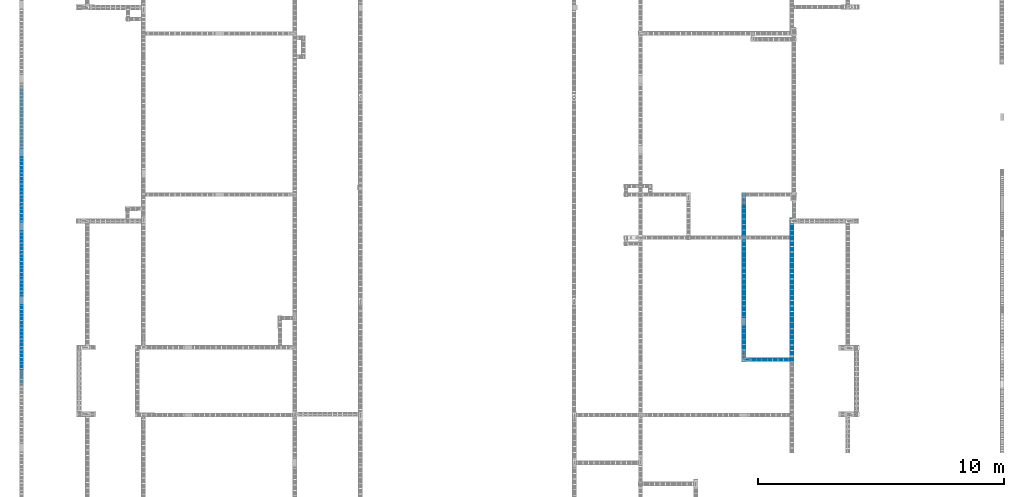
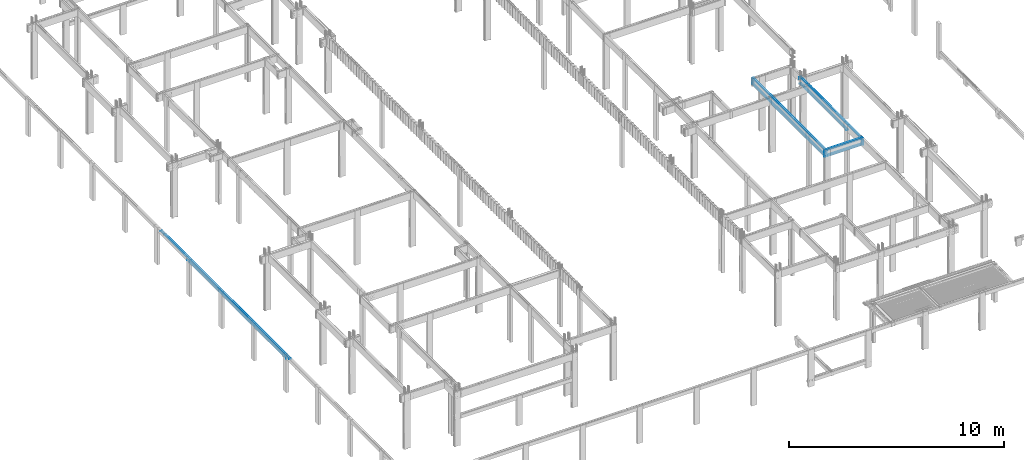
# One storey, part 57 of 236: 16 reinforcing bars.
"""IFC4 building model written with IfcOpenShell, lengths in centimetres."""

from ifc_helpers import new_model, entity, si_unit, derived_unit, frame, origin_with_axes, place, context, project, spatial, element, save


model = new_model("IFC4")

# Units and contexts
model_context = context("Model", 3, precision=1e-05, world=origin_with_axes(), identifier="Body")
ifc_project = project(units=[si_unit("LENGTHUNIT", "METRE", prefix="CENTI"), si_unit("VOLUMEUNIT", "CUBIC_METRE"), si_unit("AREAUNIT", "SQUARE_METRE"), si_unit("POWERUNIT", "WATT"), si_unit("LUMINOUSFLUXUNIT", "LUMEN"), si_unit("ELECTRICCURRENTUNIT", "AMPERE"), si_unit("PRESSUREUNIT", "PASCAL", prefix="KILO"), si_unit("MASSUNIT", "GRAM", prefix="KILO"), si_unit("PLANEANGLEUNIT", "RADIAN"), derived_unit("VOLUMETRICFLOWRATEUNIT", [(si_unit("LENGTHUNIT", "METRE"), 3), (si_unit("TIMEUNIT", "SECOND"), -1)])], contexts=[model_context])

# Site, building, storey
site_placement = place(None, frame((-4000.0, 0.0, 0.0), z_axis=(0.0, 0.0, 1.0), x_axis=(1.0, 0.0, 0.0)))
site = spatial("IfcSite", under=ifc_project, at=site_placement, Name="PADRÃO")
building_placement = place(site_placement, frame((0.0, 0.0, -14.0)))
building = spatial("IfcBuilding", under=site, at=building_placement, Name="CRECHE PRÉ-ESCOLA TIPO 2")
placement_1 = place(building_placement, origin_with_axes())
placement_2 = place(placement_1, frame((0.0, 0.0, 30.0), z_axis=(0.0, 0.0, 1.0), x_axis=(1.0, 0.0, 0.0)))
storey_placement = place(placement_2, frame((0.0, 0.0, 310.0), z_axis=(0.0, 0.0, 1.0), x_axis=(1.0, 0.0, 0.0)))
storey = spatial("IfcBuildingStorey", under=building, at=storey_placement, Name="TERREO", CompositionType="ELEMENT", Elevation=326.0)

# Reinforcing bars
for number, where, z_axis, x_axis, name in (
    (1, (3040.87, 1256.62, -36.7), (0.0, 0.0, 1.0), (1.0, 0.0, 0.0), "V243 - Longitudinal inferior"),
    (2, (3040.87, 1248.42, -36.7), (0.0, 0.0, 1.0), (1.0, 0.0, 0.0), "V243 - Longitudinal inferior"),
):
    element("IfcReinforcingBar", number, at=place(storey_placement, frame(where, z_axis=z_axis, x_axis=x_axis)), inside=storey, Name=name, BarLength=0.0, CrossSectionArea=5.0265482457e-05, NominalDiameter=0.8, PredefinedType="MAIN", context=model_context, shape_type="AdvancedSweptSolid", body=[
        entity("IfcSweptDiskSolid", entity("IfcCompositeCurve", [entity("IfcCompositeCurveSegment", "CONTINUOUS", True, entity("IfcPolyline", [entity("IfcCartesianPoint", [-102.63, 0.0, -0.4]), entity("IfcCartesianPoint", [102.63, 0.0, -0.4])]))], False), 0.4),
    ])
for number, where, z_axis, x_axis, name in (
    (3, (3040.87, 1256.62, -2.49624973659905), (0.0, 0.0, 1.0), (1.0, 0.0, 0.0), "V243 - Longitudinal superior"),
    (4, (3040.87, 1248.42, -2.49624973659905), (0.0, 0.0, 1.0), (1.0, 0.0, 0.0), "V243 - Longitudinal superior"),
):
    element("IfcReinforcingBar", number, at=place(storey_placement, frame(where, z_axis=z_axis, x_axis=x_axis)), inside=storey, Name=name, BarLength=0.0, CrossSectionArea=5.0265482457e-05, NominalDiameter=0.8, PredefinedType="MAIN", context=model_context, shape_type="AdvancedSweptSolid", body=[
        entity("IfcSweptDiskSolid", entity("IfcCompositeCurve", [entity("IfcCompositeCurveSegment", "CONTINUOUS", True, entity("IfcPolyline", [entity("IfcCartesianPoint", [-102.23, 0.0, -22.7014629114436]), entity("IfcCartesianPoint", [-102.23, 0.0, -0.403750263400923])])), entity("IfcCompositeCurveSegment", "CONTINUOUS", True, entity("IfcPolyline", [entity("IfcCartesianPoint", [-102.23, 0.0, -0.403750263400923]), entity("IfcCartesianPoint", [102.23, 0.0, -0.403750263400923])])), entity("IfcCompositeCurveSegment", "CONTINUOUS", True, entity("IfcPolyline", [entity("IfcCartesianPoint", [102.23, 0.0, -0.403750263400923]), entity("IfcCartesianPoint", [102.23, 0.0, -36.4037502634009])]))], False), 0.4),
    ])
for number, where, z_axis, x_axis, name in (
    (5, (2939.14, 1587.52, -27.1), (0.0, 0.0, 1.0), (1.0, 0.0, 0.0), "V303 - Longitudinal inferior"),
    (6, (2947.34, 1587.52, -27.1), (0.0, 0.0, 1.0), (1.0, 0.0, 0.0), "V303 - Longitudinal inferior"),
):
    element("IfcReinforcingBar", number, at=place(storey_placement, frame(where, z_axis=z_axis, x_axis=x_axis)), inside=storey, Name=name, BarLength=0.0, CrossSectionArea=5.0265482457e-05, NominalDiameter=0.8, PredefinedType="MAIN", context=model_context, shape_type="AdvancedSweptSolid", body=[
        entity("IfcSweptDiskSolid", entity("IfcCompositeCurve", [entity("IfcCompositeCurveSegment", "CONTINUOUS", True, entity("IfcPolyline", [entity("IfcCartesianPoint", [0.0, -339.6, 0.0]), entity("IfcCartesianPoint", [0.0, -339.6, -10.0])])), entity("IfcCompositeCurveSegment", "CONTINUOUS", True, entity("IfcPolyline", [entity("IfcCartesianPoint", [0.0, -339.6, -10.0]), entity("IfcCartesianPoint", [0.0, 339.6, -10.0])])), entity("IfcCompositeCurveSegment", "CONTINUOUS", True, entity("IfcPolyline", [entity("IfcCartesianPoint", [0.0, 339.6, -10.0]), entity("IfcCartesianPoint", [0.0, 339.6, 0.0])]))], False), 0.4),
    ])
for number, where, z_axis, x_axis, name in (
    (7, (2947.34, 1587.52, -2.49624973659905), (0.0, 0.0, 1.0), (1.0, 0.0, 0.0), "V303 - Longitudinal superior"),
    (8, (2939.14, 1587.52, -2.49624973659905), (0.0, 0.0, 1.0), (1.0, 0.0, 0.0), "V303 - Longitudinal superior"),
):
    element("IfcReinforcingBar", number, at=place(storey_placement, frame(where, z_axis=z_axis, x_axis=x_axis)), inside=storey, Name=name, BarLength=0.0, CrossSectionArea=5.0265482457e-05, NominalDiameter=0.8, PredefinedType="MAIN", context=model_context, shape_type="AdvancedSweptSolid", body=[
        entity("IfcSweptDiskSolid", entity("IfcCompositeCurve", [entity("IfcCompositeCurveSegment", "CONTINUOUS", True, entity("IfcPolyline", [entity("IfcCartesianPoint", [0.0, -339.6, -22.7014629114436]), entity("IfcCartesianPoint", [0.0, -339.6, -0.403750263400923])])), entity("IfcCompositeCurveSegment", "CONTINUOUS", True, entity("IfcPolyline", [entity("IfcCartesianPoint", [0.0, -339.6, -0.403750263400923]), entity("IfcCartesianPoint", [0.0, 339.6, -0.403750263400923])])), entity("IfcCompositeCurveSegment", "CONTINUOUS", True, entity("IfcPolyline", [entity("IfcCartesianPoint", [0.0, 339.6, -0.403750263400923]), entity("IfcCartesianPoint", [0.0, 339.6, -22.7014629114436])]))], False), 0.4),
    ])
for number, where, z_axis, x_axis, name in (
    (9, (3142.6, 1603.02, -36.7), (0.0, 0.0, 1.0), (1.0, 0.0, 0.0), "V305 - Longitudinal inferior"),
    (10, (3134.4, 1603.02, -36.7), (0.0, 0.0, 1.0), (1.0, 0.0, 0.0), "V305 - Longitudinal inferior"),
):
    element("IfcReinforcingBar", number, at=place(storey_placement, frame(where, z_axis=z_axis, x_axis=x_axis)), inside=storey, Name=name, BarLength=0.0, CrossSectionArea=5.0265482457e-05, NominalDiameter=0.8, PredefinedType="MAIN", context=model_context, shape_type="AdvancedSweptSolid", body=[
        entity("IfcSweptDiskSolid", entity("IfcCompositeCurve", [entity("IfcCompositeCurveSegment", "CONTINUOUS", True, entity("IfcPolyline", [entity("IfcCartesianPoint", [0.0, -218.5, -0.4]), entity("IfcCartesianPoint", [0.0, 218.5, -0.4])]))], False), 0.4),
    ])
for number, where, z_axis, x_axis, name in (
    (11, (3142.5, 1535.24734391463, -2.49531217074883), (0.0, 0.0, 1.0), (1.0, 0.0, 0.0), "V305 - Longitudinal superior"),
    (12, (3134.5, 1535.24734391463, -2.49531217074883), (0.0, 0.0, 1.0), (1.0, 0.0, 0.0), "V305 - Longitudinal superior"),
):
    element("IfcReinforcingBar", number, at=place(storey_placement, frame(where, z_axis=z_axis, x_axis=x_axis)), inside=storey, Name=name, BarLength=0.0, CrossSectionArea=7.853981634e-05, NominalDiameter=1.0, PredefinedType="MAIN", context=model_context, shape_type="AdvancedSweptSolid", body=[
        entity("IfcSweptDiskSolid", entity("IfcCompositeCurve", [entity("IfcCompositeCurveSegment", "CONTINUOUS", True, entity("IfcPolyline", [entity("IfcCartesianPoint", [0.0, -290.717343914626, -0.504687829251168]), entity("IfcCartesianPoint", [0.0, 290.212656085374, -0.504687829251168])])), entity("IfcCompositeCurveSegment", "CONTINUOUS", True, entity("IfcPolyline", [entity("IfcCartesianPoint", [0.0, 290.212656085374, -0.504687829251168]), entity("IfcCartesianPoint", [0.0, 290.212656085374, -12.0046878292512])]))], False), 0.5),
    ])
for number, where, z_axis, x_axis, name in (
    (13, (4.4, 1644.5, -116.7), (0.0, 0.0, 1.0), (1.0, 0.0, 0.0), "V324 - Longitudinal inferior"),
    (14, (12.6, 1644.5, -116.7), (0.0, 0.0, 1.0), (1.0, 0.0, 0.0), "V324 - Longitudinal inferior"),
):
    element("IfcReinforcingBar", number, at=place(storey_placement, frame(where, z_axis=z_axis, x_axis=x_axis)), inside=storey, Name=name, BarLength=0.0, CrossSectionArea=5.0265482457e-05, NominalDiameter=0.8, PredefinedType="MAIN", context=model_context, shape_type="AdvancedSweptSolid", body=[
        entity("IfcSweptDiskSolid", entity("IfcCompositeCurve", [entity("IfcCompositeCurveSegment", "CONTINUOUS", True, entity("IfcPolyline", [entity("IfcCartesianPoint", [0.0, -461.685840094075, -0.4]), entity("IfcCartesianPoint", [0.0, 461.685840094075, -0.4])]))], False), 0.4),
    ])
for number, where, z_axis, x_axis, name in (
    (15, (12.6, 1753.98836963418, -102.5), (0.0, 0.0, 1.0), (1.0, 0.0, 0.0), "V324 - Longitudinal superior"),
    (16, (4.4, 1753.98836963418, -102.5), (0.0, 0.0, 1.0), (1.0, 0.0, 0.0), "V324 - Longitudinal superior"),
):
    element("IfcReinforcingBar", number, at=place(storey_placement, frame(where, z_axis=z_axis, x_axis=x_axis)), inside=storey, Name=name, BarLength=0.0, CrossSectionArea=5.0265482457e-05, NominalDiameter=0.8, PredefinedType="MAIN", context=model_context, shape_type="AdvancedSweptSolid", body=[
        entity("IfcSweptDiskSolid", entity("IfcCompositeCurve", [entity("IfcCompositeCurveSegment", "CONTINUOUS", True, entity("IfcPolyline", [entity("IfcCartesianPoint", [0.0, -600.0, -0.4]), entity("IfcCartesianPoint", [0.0, 600.0, -0.4])]))], False), 0.4),
    ])

save(model, "model.ifc")
